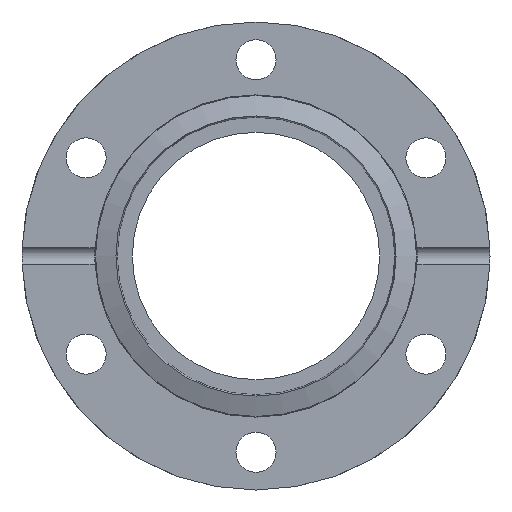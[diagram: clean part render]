
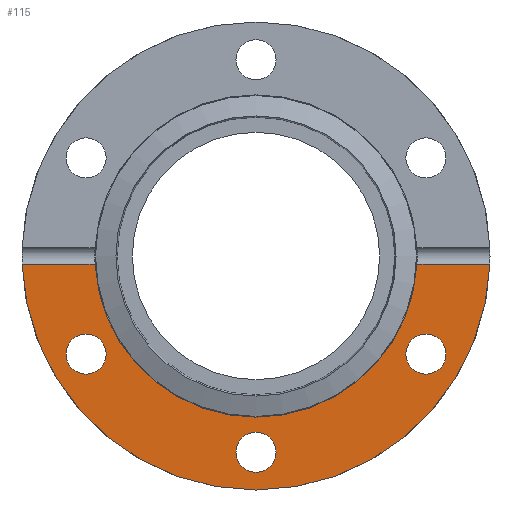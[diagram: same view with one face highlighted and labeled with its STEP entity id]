
A CAD part, left-side view. The second image highlights one B-rep face of the part: STEP entity #115.
In plain terms, the highlighted planar face has unit normal (-1, 0, 0).
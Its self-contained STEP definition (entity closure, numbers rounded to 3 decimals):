
#115 = ADVANCED_FACE( '', ( #229, #230, #231, #232 ), #233, .F. );
#229 = FACE_BOUND( '', #343, .T. );
#230 = FACE_BOUND( '', #344, .T. );
#231 = FACE_BOUND( '', #345, .T. );
#232 = FACE_OUTER_BOUND( '', #346, .T. );
#233 = PLANE( '', #347 );
#343 = EDGE_LOOP( '', ( #483 ) );
#344 = EDGE_LOOP( '', ( #484 ) );
#345 = EDGE_LOOP( '', ( #485 ) );
#346 = EDGE_LOOP( '', ( #486, #487, #488, #489 ) );
#347 = AXIS2_PLACEMENT_3D( '', #490, #491, #492 );
#483 = ORIENTED_EDGE( '', *, *, #594, .F. );
#484 = ORIENTED_EDGE( '', *, *, #576, .F. );
#485 = ORIENTED_EDGE( '', *, *, #578, .F. );
#486 = ORIENTED_EDGE( '', *, *, #592, .T. );
#487 = ORIENTED_EDGE( '', *, *, #572, .T. );
#488 = ORIENTED_EDGE( '', *, *, #595, .F. );
#489 = ORIENTED_EDGE( '', *, *, #580, .T. );
#490 = CARTESIAN_POINT( '', ( -12.7, 0., 35. ) );
#491 = DIRECTION( '', ( 1., 0., 0. ) );
#492 = DIRECTION( '', ( 0., 0., -1. ) );
#572 = EDGE_CURVE( '', #647, #645, #648, .T. );
#576 = EDGE_CURVE( '', #652, #652, #653, .T. );
#578 = EDGE_CURVE( '', #655, #655, #656, .T. );
#580 = EDGE_CURVE( '', #658, #659, #660, .T. );
#592 = EDGE_CURVE( '', #659, #647, #677, .T. );
#594 = EDGE_CURVE( '', #679, #679, #680, .T. );
#595 = EDGE_CURVE( '', #658, #645, #681, .T. );
#645 = VERTEX_POINT( '', #738 );
#647 = VERTEX_POINT( '', #755 );
#648 = LINE( '', #756, #757 );
#652 = VERTEX_POINT( '', #776 );
#653 = CIRCLE( '', #777, 3. );
#655 = VERTEX_POINT( '', #779 );
#656 = CIRCLE( '', #780, 3. );
#658 = VERTEX_POINT( '', #782 );
#659 = VERTEX_POINT( '', #783 );
#660 = LINE( '', #784, #785 );
#677 = CIRCLE( '', #832, 35. );
#679 = VERTEX_POINT( '', #834 );
#680 = CIRCLE( '', #835, 3. );
#681 = CIRCLE( '', #836, 24.1 );
#738 = CARTESIAN_POINT( '', ( -12.7, -24.07, -1.2 ) );
#755 = CARTESIAN_POINT( '', ( -12.7, -34.979, -1.2 ) );
#756 = CARTESIAN_POINT( '', ( -12.7, -35., -1.2 ) );
#757 = VECTOR( '', #897, 1000. );
#776 = CARTESIAN_POINT( '', ( -12.7, 26.918, -12.077 ) );
#777 = AXIS2_PLACEMENT_3D( '', #898, #899, #900 );
#779 = CARTESIAN_POINT( '', ( -12.7, 3., -29.35 ) );
#780 = AXIS2_PLACEMENT_3D( '', #901, #902, #903 );
#782 = CARTESIAN_POINT( '', ( -12.7, 24.07, -1.2 ) );
#783 = CARTESIAN_POINT( '', ( -12.7, 34.979, -1.2 ) );
#784 = CARTESIAN_POINT( '', ( -12.7, -35., -1.2 ) );
#785 = VECTOR( '', #904, 1000. );
#832 = AXIS2_PLACEMENT_3D( '', #920, #921, #922 );
#834 = CARTESIAN_POINT( '', ( -12.7, -23.918, -17.273 ) );
#835 = AXIS2_PLACEMENT_3D( '', #923, #924, #925 );
#836 = AXIS2_PLACEMENT_3D( '', #926, #927, #928 );
#897 = DIRECTION( '', ( 0., 1., 0. ) );
#898 = CARTESIAN_POINT( '', ( -12.7, 25.418, -14.675 ) );
#899 = DIRECTION( '', ( -1., 0., 0. ) );
#900 = DIRECTION( '', ( 0., 0.5, 0.866 ) );
#901 = CARTESIAN_POINT( '', ( -12.7, 0., -29.35 ) );
#902 = DIRECTION( '', ( -1., 0., 0. ) );
#903 = DIRECTION( '', ( 0., 1., 0. ) );
#904 = DIRECTION( '', ( 0., 1., 0. ) );
#920 = CARTESIAN_POINT( '', ( -12.7, 0., 0. ) );
#921 = DIRECTION( '', ( -1., 0., 0. ) );
#922 = DIRECTION( '', ( 0., 0., 1. ) );
#923 = CARTESIAN_POINT( '', ( -12.7, -25.418, -14.675 ) );
#924 = DIRECTION( '', ( -1., 0., 0. ) );
#925 = DIRECTION( '', ( 0., 0.5, -0.866 ) );
#926 = CARTESIAN_POINT( '', ( -12.7, 0., 0. ) );
#927 = DIRECTION( '', ( -1., 0., 0. ) );
#928 = DIRECTION( '', ( 0., 0., 1. ) );
